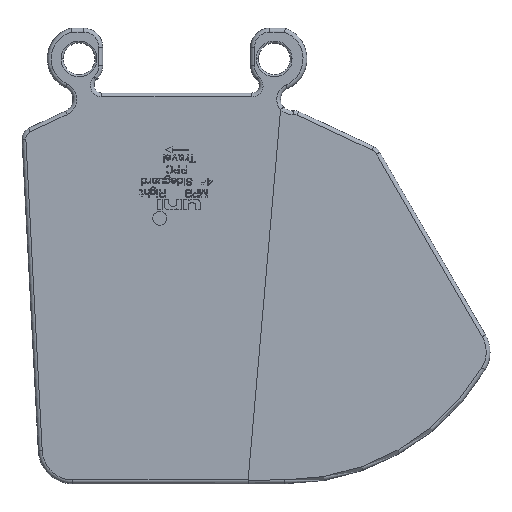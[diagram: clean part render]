
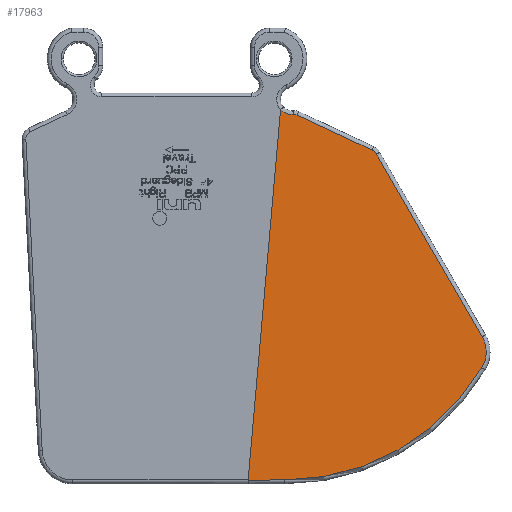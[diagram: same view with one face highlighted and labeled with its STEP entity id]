
A CAD part, left-side view. The second image highlights one B-rep face of the part: STEP entity #17963.
In plain terms, the highlighted planar face has unit normal (-1, -0.013, -0.001).
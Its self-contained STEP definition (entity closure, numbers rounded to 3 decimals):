
#327=DIRECTION('',(0.,0.087,-0.996));
#328=VECTOR('',#327,96.807);
#329=CARTESIAN_POINT('',(-2.,-27.053,-5.162));
#330=LINE('',#329,#328);
#2457=CARTESIAN_POINT('',(-2.,-18.616,-101.6));
#2458=CARTESIAN_POINT('',(-2.,-18.616,-101.6));
#2459=CARTESIAN_POINT('',(-2.,-18.616,
-101.601));
#2460=CARTESIAN_POINT('',(-2.,-18.616,
-101.601));
#2466=DIRECTION('',(0.012,-0.906,-0.423));
#2467=VECTOR('',#2466,21.526);
#2468=CARTESIAN_POINT('',(-1.944,-31.378,
-6.638));
#2469=LINE('',#2468,#2467);
#2470=CARTESIAN_POINT('',(-1.702,-49.829,
-18.001));
#2471=DIRECTION('',(1.,0.012,0.001));
#2472=DIRECTION('',(0.004,-0.423,0.906));
#2473=AXIS2_PLACEMENT_3D('',#2470,#2471,#2472);
#2475=DIRECTION('',(0.007,-0.501,-0.866));
#2476=VECTOR('',#2475,54.952);
#2477=CARTESIAN_POINT('',(-1.676,-51.994,
-16.75));
#2478=LINE('',#2477,#2476);
#2479=CARTESIAN_POINT('',(-1.363,-72.577,
-68.324));
#2480=DIRECTION('',(1.,0.012,0.001));
#2481=DIRECTION('',(0.01,-0.866,0.501));
#2482=AXIS2_PLACEMENT_3D('',#2479,#2480,#2481);
#2484=CARTESIAN_POINT('',(-1.947,-28.083,
-41.796));
#2485=DIRECTION('',(1.,0.012,0.001));
#2486=DIRECTION('',(0.011,-0.859,-0.512));
#2487=AXIS2_PLACEMENT_3D('',#2484,#2485,#2486);
#2489=DIRECTION('',(-0.012,1.,0.));
#2490=VECTOR('',#2489,9.466);
#2491=CARTESIAN_POINT('',(-1.882,-28.081,
-101.601));
#2492=LINE('',#2491,#2490);
#2493=CARTESIAN_POINT('',(-2.,-27.053,-5.162));
#2494=CARTESIAN_POINT('',(-2.,-27.053,
-5.161));
#2495=CARTESIAN_POINT('',(-2.,-27.054,
-5.158));
#2496=CARTESIAN_POINT('',(-2.,-27.055,
-5.155));
#2497=CARTESIAN_POINT('',(-2.,-27.056,
-5.154));
#2498=CARTESIAN_POINT('',(-2.,-27.057,
-5.153));
#2500=CARTESIAN_POINT('',(-2.,-27.057,
-5.153));
#2501=CARTESIAN_POINT('',(-1.999,-27.111,
-5.214));
#2502=CARTESIAN_POINT('',(-1.998,-27.224,
-5.333));
#2503=CARTESIAN_POINT('',(-1.995,-27.404,
-5.5));
#2504=CARTESIAN_POINT('',(-1.993,-27.594,
-5.655));
#2505=CARTESIAN_POINT('',(-1.99,-27.794,
-5.798));
#2506=CARTESIAN_POINT('',(-1.987,-28.001,
-5.929));
#2507=CARTESIAN_POINT('',(-1.985,-28.217,
-6.047));
#2508=CARTESIAN_POINT('',(-1.982,-28.439,
-6.151));
#2509=CARTESIAN_POINT('',(-1.979,-28.668,
-6.242));
#2510=CARTESIAN_POINT('',(-1.976,-28.901,
-6.318));
#2511=CARTESIAN_POINT('',(-1.973,-29.139,
-6.379));
#2512=CARTESIAN_POINT('',(-1.97,-29.38,
-6.426));
#2513=CARTESIAN_POINT('',(-1.967,-29.623,
-6.457));
#2514=CARTESIAN_POINT('',(-1.963,-29.868,
-6.474));
#2515=CARTESIAN_POINT('',(-1.96,-30.113,
-6.475));
#2516=CARTESIAN_POINT('',(-1.958,-30.277,
-6.466));
#2517=CARTESIAN_POINT('',(-1.957,-30.358,
-6.459));
#2519=CARTESIAN_POINT('',(-1.953,-30.532,
-8.451));
#2520=DIRECTION('',(1.,0.012,0.001));
#2521=DIRECTION('',(-0.002,0.087,0.996));
#2522=AXIS2_PLACEMENT_3D('',#2519,#2520,#2521);
#12353=CARTESIAN_POINT('',(-2.,-27.053,-5.162));
#12355=VERTEX_POINT('',#12353);
#12356=CARTESIAN_POINT('',(-2.,-18.616,-101.6));
#12357=VERTEX_POINT('',#12356);
#13836=VERTEX_POINT('',#2460);
#13838=CARTESIAN_POINT('',(-1.944,-31.378,
-6.638));
#13839=CARTESIAN_POINT('',(-1.691,-50.886,
-15.735));
#13840=VERTEX_POINT('',#13838);
#13841=VERTEX_POINT('',#13839);
#13842=CARTESIAN_POINT('',(-1.676,-51.994,
-16.75));
#13843=VERTEX_POINT('',#13842);
#13844=CARTESIAN_POINT('',(-1.281,-79.501,
-64.319));
#13845=VERTEX_POINT('',#13844);
#13846=CARTESIAN_POINT('',(-1.272,-79.447,
-72.42));
#13847=VERTEX_POINT('',#13846);
#13848=CARTESIAN_POINT('',(-1.882,-28.081,
-101.601));
#13849=VERTEX_POINT('',#13848);
#13850=VERTEX_POINT('',#2498);
#13851=VERTEX_POINT('',#2517);
#17937=CARTESIAN_POINT('',(-1.25,-86.91,-7.604));
#17938=DIRECTION('',(1.,0.012,0.001));
#17939=DIRECTION('',(-0.013,0.996,0.087));
#17940=AXIS2_PLACEMENT_3D('',#17937,#17938,#17939);
#17941=PLANE('',#17940);
#17943=ORIENTED_EDGE('',*,*,#17942,.T.);
#17945=ORIENTED_EDGE('',*,*,#17944,.T.);
#17947=ORIENTED_EDGE('',*,*,#17946,.T.);
#17949=ORIENTED_EDGE('',*,*,#17948,.T.);
#17951=ORIENTED_EDGE('',*,*,#17950,.T.);
#17953=ORIENTED_EDGE('',*,*,#17952,.T.);
#17954=ORIENTED_EDGE('',*,*,#17927,.F.);
#17955=ORIENTED_EDGE('',*,*,#16076,.F.);
#17956=ORIENTED_EDGE('',*,*,#17544,.T.);
#17958=ORIENTED_EDGE('',*,*,#17957,.T.);
#17960=ORIENTED_EDGE('',*,*,#17959,.T.);
#17961=EDGE_LOOP('',(#17943,#17945,#17947,#17949,#17951,#17953,#17954,#17955,
#17956,#17958,#17960));
#17962=FACE_OUTER_BOUND('',#17961,.F.);
#17963=ADVANCED_FACE('',(#17962),#17941,.F.);
#2461=B_SPLINE_CURVE_WITH_KNOTS('',3,(#2457,#2458,#2459,#2460),.UNSPECIFIED.,
.F.,.F.,(4,4),(0.,1.),.UNSPECIFIED.);
#2474=CIRCLE('',#2473,2.5);
#2483=CIRCLE('',#2482,7.999);
#2488=CIRCLE('',#2487,59.805);
#2499=B_SPLINE_CURVE_WITH_KNOTS('',3,(#2493,#2494,#2495,#2496,#2497,#2498),
.UNSPECIFIED.,.F.,.F.,(4,1,1,4),(0.,0.333,0.667,1.),
.UNSPECIFIED.);
#2518=B_SPLINE_CURVE_WITH_KNOTS('',3,(#2500,#2501,#2502,#2503,#2504,#2505,#2506,
#2507,#2508,#2509,#2510,#2511,#2512,#2513,#2514,#2515,#2516,#2517),
.UNSPECIFIED.,.F.,.F.,(4,1,1,1,1,1,1,1,1,1,1,1,1,1,1,4),(0.,0.067,
0.133,0.2,0.267,0.333,0.4,
0.467,0.533,0.6,0.667,0.733,
0.8,0.867,0.933,1.),.UNSPECIFIED.);
#2523=CIRCLE('',#2522,2.);
#16076=EDGE_CURVE('',#12355,#12357,#330,.T.);
#17544=EDGE_CURVE('',#12355,#13850,#2499,.T.);
#17927=EDGE_CURVE('',#12357,#13836,#2461,.T.);
#17942=EDGE_CURVE('',#13840,#13841,#2469,.T.);
#17944=EDGE_CURVE('',#13841,#13843,#2474,.T.);
#17946=EDGE_CURVE('',#13843,#13845,#2478,.T.);
#17948=EDGE_CURVE('',#13845,#13847,#2483,.T.);
#17950=EDGE_CURVE('',#13847,#13849,#2488,.T.);
#17952=EDGE_CURVE('',#13849,#13836,#2492,.T.);
#17957=EDGE_CURVE('',#13850,#13851,#2518,.T.);
#17959=EDGE_CURVE('',#13851,#13840,#2523,.T.);
